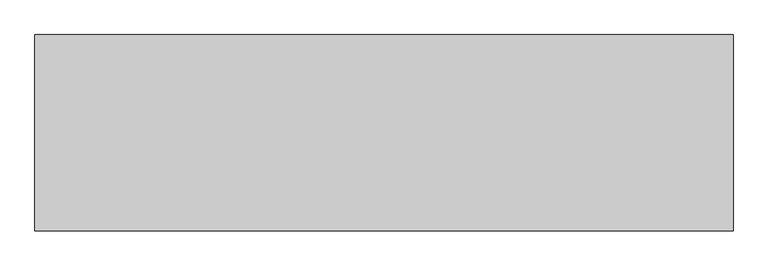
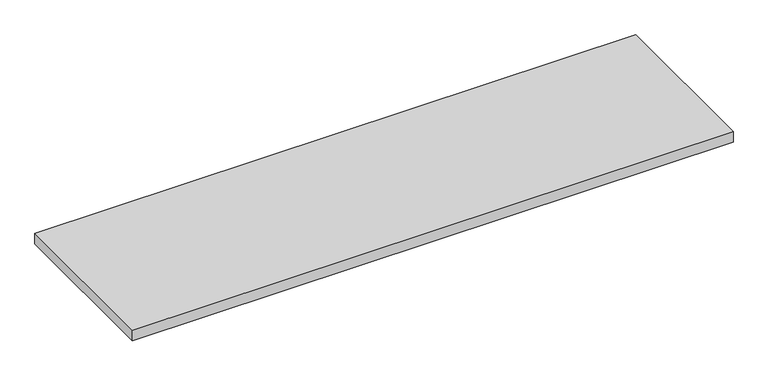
"""IFC4 building model written with IfcOpenShell, lengths in millimetres: furniture geometry, Haworth_Masters_CommonTop : 18d 64w 1h - Inset Style."""

import ifcopenshell
import ifcopenshell.guid

model = None  # the IFC model being written
_history = None  # IfcOwnerHistory: only IFC2X3 demands one
_inside = {}  # id of a spatial element -> (the spatial element, [elements in it])
_under = {}  # id of a project, library or spatial element -> (it, [spatial elements below it])
_declared = {}  # id of a project -> (the project, [libraries it declares])
_typed = {}  # id of a type object -> (the type object, [elements of that type])
_made_of = {}  # id of a material, layer set ... -> (it, [elements and type objects made of it])


def new_model(schema):
    """Start an empty IFC model of exactly this schema.

    Asked for "IFC4X3", IfcOpenShell would pick the latest addendum, in which some entities
    have other attributes; the version numbers below select the first issue.
    IFC2X3 requires an IfcOwnerHistory on every rooted entity: one is made here for all.
    """
    global model, _history
    if schema == "IFC4X3":
        model = ifcopenshell.file(schema_version=(4, 3, 0, 0))
    else:
        model = ifcopenshell.file(schema=schema)
    _inside.clear()
    _under.clear()
    _declared.clear()
    _typed.clear()
    _made_of.clear()
    _history = None
    if model.schema == "IFC2X3":
        org = make("IfcOrganization", Name="unknown")
        user = make(
            "IfcPersonAndOrganization",
            ThePerson=make("IfcPerson", FamilyName="unknown"),
            TheOrganization=org,
        )
        app = make(
            "IfcApplication",
            ApplicationDeveloper=org,
            Version="unknown",
            ApplicationFullName="unknown",
            ApplicationIdentifier="unknown",
        )
        _history = make(
            "IfcOwnerHistory",
            OwningUser=user,
            OwningApplication=app,
            ChangeAction="ADDED",
            CreationDate=0,
        )
    return model


def make(cls, **values):
    """One entity of the class cls with the attributes given. An attribute that is None is left unset."""
    return model.create_entity(
        cls, **{name: value for name, value in values.items() if value is not None}
    )


def rooted(cls, **values):
    """An entity with a GlobalId (a new one), such as an element, a storey or a relation."""
    return make(cls, GlobalId=ifcopenshell.guid.new(), OwnerHistory=_history, **values)


def si_unit(unit_type, name, prefix=None):
    """IfcSIUnit, for example si_unit("LENGTHUNIT", "METRE", prefix="MILLI")."""
    return make("IfcSIUnit", UnitType=unit_type, Prefix=prefix, Name=name)


def assignment(units):
    """IfcUnitAssignment: the units of a project."""
    return None if units is None else make("IfcUnitAssignment", Units=units)


def point(xyz):
    """IfcCartesianPoint."""
    return None if xyz is None else make("IfcCartesianPoint", Coordinates=xyz)


def direction(xyz):
    """IfcDirection."""
    return None if xyz is None else make("IfcDirection", DirectionRatios=xyz)


def frame(location, z_axis=None, x_axis=None):
    """IfcAxis2Placement3D, a coordinate frame: its origin and axes. An axis left out is left unset."""
    return make(
        "IfcAxis2Placement3D",
        Location=point(location),
        Axis=direction(z_axis),
        RefDirection=direction(x_axis),
    )


def origin():
    """The frame at (0, 0, 0) with its axes left unset."""
    return frame((0.0, 0.0, 0.0))


def place(relative_to, where):
    """IfcLocalPlacement: puts the frame where relative to a parent placement (None: the world)."""
    return make(
        "IfcLocalPlacement", PlacementRelTo=relative_to, RelativePlacement=where
    )


def context(
    kind, dimensions, precision=None, world=None, true_north=None, identifier=None
):
    """IfcGeometricRepresentationContext, for example the 3D "Model" context."""
    return make(
        "IfcGeometricRepresentationContext",
        ContextIdentifier=identifier,
        ContextType=kind,
        CoordinateSpaceDimension=dimensions,
        Precision=precision,
        WorldCoordinateSystem=world,
        TrueNorth=true_north,
    )


def project(units=None, contexts=None):
    """IfcProject with its units and contexts."""
    return rooted(
        "IfcProject",
        Name="project",
        RepresentationContexts=contexts,
        UnitsInContext=assignment(units),
    )


def spatial(cls, under=None, at=None, **own):
    """A site, building, storey or space (cls), placed at a placement, below another one or the project."""
    s = rooted(cls, ObjectPlacement=at, **own)
    if under is not None:
        _under.setdefault(under.id(), (under, []))[1].append(s)
    return s


def polyline(points):
    """IfcPolyline through the points."""
    return make("IfcPolyline", Points=[point(p) for p in points])


def outline(outer, holes=None, kind="AREA"):
    """IfcArbitraryClosedProfileDef: a profile drawn as a closed curve; with holes, ...WithVoids."""
    if holes is None:
        return make("IfcArbitraryClosedProfileDef", ProfileType=kind, OuterCurve=outer)
    return make(
        "IfcArbitraryProfileDefWithVoids",
        ProfileType=kind,
        OuterCurve=outer,
        InnerCurves=holes,
    )


def extrude(swept, where, along, depth):
    """IfcExtrudedAreaSolid: the profile swept, set in the frame where, extruded along a direction by depth."""
    return make(
        "IfcExtrudedAreaSolid",
        SweptArea=swept,
        Position=where,
        ExtrudedDirection=direction(along),
        Depth=depth,
    )


def shape(context_of_items, identifier, shape_type, items):
    """IfcShapeRepresentation: the items that make up one representation, for example the "Body"."""
    return make(
        "IfcShapeRepresentation",
        ContextOfItems=context_of_items,
        RepresentationIdentifier=identifier,
        RepresentationType=shape_type,
        Items=items,
    )


def source(mapping_origin, context_of_items, identifier, shape_type, items):
    """IfcRepresentationMap: a shape defined once, which mapped items show again and again."""
    return make(
        "IfcRepresentationMap",
        MappingOrigin=mapping_origin,
        MappedRepresentation=shape(context_of_items, identifier, shape_type, items),
    )


def transform(
    local_origin,
    x_axis=None,
    y_axis=None,
    z_axis=None,
    scale=None,
    scale2=None,
    scale3=None,
    uniform=True,
):
    """IfcCartesianTransformationOperator3D, or its non-uniform kind. x_axis, y_axis, z_axis: its Axis1, 2, 3."""
    if uniform:
        return make(
            "IfcCartesianTransformationOperator3D",
            Axis1=direction(x_axis),
            Axis2=direction(y_axis),
            LocalOrigin=point(local_origin),
            Scale=scale,
            Axis3=direction(z_axis),
        )
    return make(
        "IfcCartesianTransformationOperator3DnonUniform",
        Axis1=direction(x_axis),
        Axis2=direction(y_axis),
        LocalOrigin=point(local_origin),
        Scale=scale,
        Axis3=direction(z_axis),
        Scale2=scale2,
        Scale3=scale3,
    )


def mapped(mapping_source, mapping_target):
    """IfcMappedItem: shows the shape of a source again, moved by a transform."""
    return make(
        "IfcMappedItem", MappingSource=mapping_source, MappingTarget=mapping_target
    )


def made_of(thing, what):
    """Note that an element or type object is made of a material, layer set ...; save() writes the relation."""
    if what is not None:
        _made_of.setdefault(what.id(), (what, []))[1].append(thing)
    return thing


def element(
    cls,
    number,
    at=None,
    inside=None,
    cuts=None,
    type_object=None,
    material=None,
    context=None,
    identifier="Body",
    shape_type=None,
    held_by="IfcProductDefinitionShape",
    body=None,
    shapes=None,
    **own,
):
    """One element of the class cls, such as IfcWall. Its Tag is "e" and its number.

    at: its placement. inside: the storey or other place that contains it. cuts: it is an
    opening in that element (IfcRelVoidsElement). A single representation is given by context,
    identifier, shape_type and body (its items); several are given by shapes. held_by: the class
    of the entity that holds the representations. save() writes the other relations.
    """
    e = rooted(cls, Tag="e%d" % number, ObjectPlacement=at, **own)
    if body is not None:
        shapes = [shape(context, identifier, shape_type, body)]
    if shapes is not None:
        e.Representation = make(held_by, Representations=shapes)
    if inside is not None:
        _inside.setdefault(inside.id(), (inside, []))[1].append(e)
    if cuts is not None:
        rooted(
            "IfcRelVoidsElement", RelatingBuildingElement=cuts, RelatedOpeningElement=e
        )
    if type_object is not None:
        _typed.setdefault(type_object.id(), (type_object, []))[1].append(e)
    return made_of(e, material)


def aggregate(whole, parts):
    """IfcRelAggregates: a whole, such as a stair, and the parts it consists of."""
    return rooted("IfcRelAggregates", RelatingObject=whole, RelatedObjects=parts)


def save(model, path):
    """Write the relations noted so far, then the file.

    IfcRelAggregates (storeys below a building ...), IfcRelContainedInSpatialStructure (elements
    in a storey), IfcRelDefinesByType, IfcRelAssociatesMaterial and IfcRelDeclares: one each for
    every whole, place, type object, material and project.
    """
    for whole, parts in _under.values():
        aggregate(whole, parts)
    for where, things in _inside.values():
        rooted(
            "IfcRelContainedInSpatialStructure",
            RelatedElements=things,
            RelatingStructure=where,
        )
    for kind, things in _typed.values():
        rooted("IfcRelDefinesByType", RelatedObjects=things, RelatingType=kind)
    for what, things in _made_of.values():
        rooted("IfcRelAssociatesMaterial", RelatedObjects=things, RelatingMaterial=what)
    for by, libraries in _declared.values():
        rooted("IfcRelDeclares", RelatingContext=by, RelatedDefinitions=libraries)
    model.write(path)


def furniture_626a85f7(model_context):
    return source(origin(), model_context, "Body", "SweptSolid", [
        extrude(outline(polyline([(812.8, 228.6), (812.8, -228.6), (-812.8, -228.6), (-812.8, 228.6), (812.8, 228.6)])), frame((0.0, 0.0, 706.4375), z_axis=(0.0, 0.0, 1.0), x_axis=(1.0, 0.0, 0.0)), (0.0, 0.0, 1.0), 30.1625),
    ])


if __name__ == "__main__":
    model = new_model("IFC4")
    model_context = context("Model", 3, world=origin())
    ifc_project = project(units=[si_unit("LENGTHUNIT", "METRE", prefix="MILLI")], contexts=[model_context])
    site = spatial("IfcSite", under=ifc_project)
    building = spatial("IfcBuilding", under=site)
    placement = place(None, origin())
    furniture_shape = furniture_626a85f7(model_context)
    element("IfcFurniture", 1, ObjectType="Haworth_Masters_CommonTop : 18d 64w 1h - Inset Style", at=placement, inside=building, context=model_context, shape_type="MappedRepresentation", body=[
        mapped(furniture_shape, transform((0.0, 0.0, 0.0), x_axis=(1.0, 0.0, 0.0), y_axis=(0.0, 1.0, 0.0), z_axis=(0.0, 0.0, 1.0))),
    ])
    save(model, "model.ifc")
